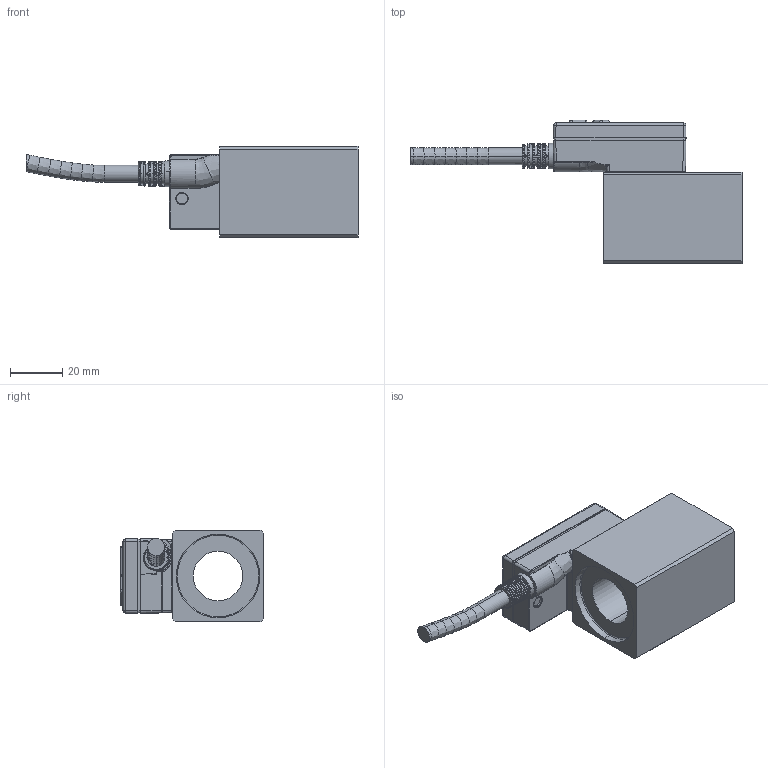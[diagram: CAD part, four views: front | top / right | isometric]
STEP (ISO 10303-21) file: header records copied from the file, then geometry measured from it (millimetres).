
FILE_DESCRIPTION (( 'STEP AP214' ), '1' );
FILE_NAME ('MP35_19x50-P1.STEP', '2015-07-28T12:35:42', ( '' ), ( '' ), 'SwSTEP 2.0', 'SolidWorks 2014', '' );
FILE_SCHEMA (( 'AUTOMOTIVE_DESIGN' ));
Length unit declared in the file: millimetre
Products named in the file (2): MP35_19x50-P1
Bounding box: 127.5 x 55 x 35 mm (x, y, z)
Volume: 75760.5 mm3; surface area: 19577 mm2
Topology: 1 solids, 23 shells, 827 faces, 2064 edges, 1324 vertices
Faces by surface type: plane 517, cylinder 142, bspline 122, cone 44, torus 2
Entity records: 39547 total; most frequent: CARTESIAN_POINT 12184, ORIENTED_EDGE 4104, DIRECTION 3481, EDGE_CURVE 2052, VERTEX_POINT 1324, LINE 1313, VECTOR 1313, AXIS2_PLACEMENT_3D 1084
